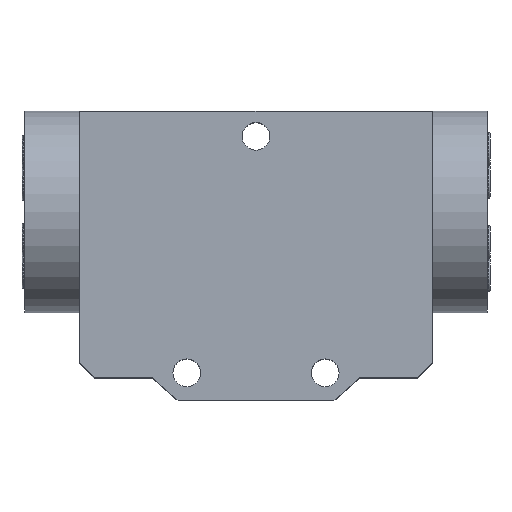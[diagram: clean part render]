
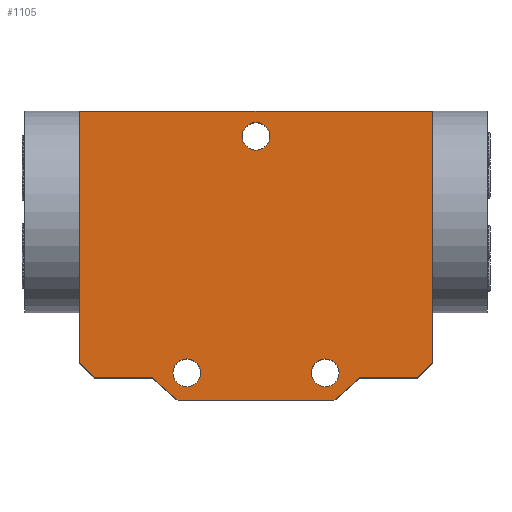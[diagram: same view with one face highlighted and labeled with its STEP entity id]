
A CAD part, top view. The second image highlights one B-rep face of the part: STEP entity #1105.
In plain terms, the highlighted planar face has unit normal (0, 0, 1).
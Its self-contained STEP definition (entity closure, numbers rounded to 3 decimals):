
#331=PLANE('',#7929);
#655=FACE_BOUND('',#2042,.T.);
#656=FACE_BOUND('',#2043,.T.);
#657=FACE_BOUND('',#2044,.T.);
#658=FACE_BOUND('',#2045,.T.);
#1105=ADVANCED_FACE('',(#655,#656,#657,#658),#331,.T.);
#2042=EDGE_LOOP('',(#3289));
#2043=EDGE_LOOP('',(#3290,#3291,#3292,#3293,#3294,#3295,#3296,#3297,#3298,
#3299));
#2044=EDGE_LOOP('',(#3300));
#2045=EDGE_LOOP('',(#3301));
#2889=CIRCLE('',#7926,5.5);
#2890=CIRCLE('',#7927,5.5);
#2891=CIRCLE('',#7928,5.5);
#3289=ORIENTED_EDGE('',*,*,#5930,.T.);
#3290=ORIENTED_EDGE('',*,*,#5860,.T.);
#3291=ORIENTED_EDGE('',*,*,#5931,.T.);
#3292=ORIENTED_EDGE('',*,*,#5932,.T.);
#3293=ORIENTED_EDGE('',*,*,#5933,.T.);
#3294=ORIENTED_EDGE('',*,*,#5934,.T.);
#3295=ORIENTED_EDGE('',*,*,#5935,.T.);
#3296=ORIENTED_EDGE('',*,*,#5936,.T.);
#3297=ORIENTED_EDGE('',*,*,#5937,.T.);
#3298=ORIENTED_EDGE('',*,*,#5904,.T.);
#3299=ORIENTED_EDGE('',*,*,#5928,.T.);
#3300=ORIENTED_EDGE('',*,*,#5938,.F.);
#3301=ORIENTED_EDGE('',*,*,#5939,.F.);
#5130=VERTEX_POINT('',#12514);
#5131=VERTEX_POINT('',#12516);
#5174=VERTEX_POINT('',#12603);
#5175=VERTEX_POINT('',#12605);
#5198=VERTEX_POINT('',#12656);
#5199=VERTEX_POINT('',#12658);
#5200=VERTEX_POINT('',#12660);
#5201=VERTEX_POINT('',#12662);
#5202=VERTEX_POINT('',#12664);
#5203=VERTEX_POINT('',#12666);
#5204=VERTEX_POINT('',#12668);
#5205=VERTEX_POINT('',#12671);
#5206=VERTEX_POINT('',#12673);
#5860=EDGE_CURVE('',#5131,#5130,#6783,.T.);
#5904=EDGE_CURVE('',#5175,#5174,#6803,.T.);
#5928=EDGE_CURVE('',#5174,#5131,#6814,.T.);
#5930=EDGE_CURVE('',#5198,#5198,#2889,.T.);
#5931=EDGE_CURVE('',#5130,#5199,#6815,.T.);
#5932=EDGE_CURVE('',#5199,#5200,#6816,.T.);
#5933=EDGE_CURVE('',#5200,#5201,#6817,.T.);
#5934=EDGE_CURVE('',#5201,#5202,#6818,.T.);
#5935=EDGE_CURVE('',#5202,#5203,#6819,.T.);
#5936=EDGE_CURVE('',#5203,#5204,#6820,.T.);
#5937=EDGE_CURVE('',#5204,#5175,#6821,.T.);
#5938=EDGE_CURVE('',#5205,#5205,#2890,.T.);
#5939=EDGE_CURVE('',#5206,#5206,#2891,.T.);
#6783=LINE('',#12515,#7327);
#6803=LINE('',#12604,#7347);
#6814=LINE('',#12651,#7358);
#6815=LINE('',#12657,#7359);
#6816=LINE('',#12659,#7360);
#6817=LINE('',#12661,#7361);
#6818=LINE('',#12663,#7362);
#6819=LINE('',#12665,#7363);
#6820=LINE('',#12667,#7364);
#6821=LINE('',#12669,#7365);
#7327=VECTOR('',#8737,1.);
#7347=VECTOR('',#8807,1.);
#7358=VECTOR('',#8846,1.);
#7359=VECTOR('',#8853,1.);
#7360=VECTOR('',#8854,1.);
#7361=VECTOR('',#8855,1.);
#7362=VECTOR('',#8856,1.);
#7363=VECTOR('',#8857,1.);
#7364=VECTOR('',#8858,1.);
#7365=VECTOR('',#8859,1.);
#7926=AXIS2_PLACEMENT_3D('',#12655,#8851,#8852);
#7927=AXIS2_PLACEMENT_3D('',#12670,#8860,#8861);
#7928=AXIS2_PLACEMENT_3D('',#12672,#8862,#8863);
#7929=AXIS2_PLACEMENT_3D('',#12674,#8864,#8865);
#8737=DIRECTION('',(0.,-1.,0.));
#8807=DIRECTION('',(0.,1.,0.));
#8846=DIRECTION('',(-1.,0.,0.));
#8851=DIRECTION('',(0.,0.,-1.));
#8852=DIRECTION('',(-1.,0.,0.));
#8853=DIRECTION('',(0.689,-0.725,0.));
#8854=DIRECTION('',(1.,0.,0.));
#8855=DIRECTION('',(0.746,-0.666,0.));
#8856=DIRECTION('',(1.,0.,0.));
#8857=DIRECTION('',(0.746,0.666,0.));
#8858=DIRECTION('',(1.,0.,0.));
#8859=DIRECTION('',(0.689,0.725,0.));
#8860=DIRECTION('',(0.,0.,1.));
#8861=DIRECTION('',(1.,0.,0.));
#8862=DIRECTION('',(0.,0.,1.));
#8863=DIRECTION('',(1.,0.,0.));
#8864=DIRECTION('',(0.,0.,1.));
#8865=DIRECTION('',(1.,0.,0.));
#12514=CARTESIAN_POINT('',(-70.,-42.549,80.));
#12515=CARTESIAN_POINT('',(-70.,57.5,80.));
#12516=CARTESIAN_POINT('',(-70.,57.5,80.));
#12603=CARTESIAN_POINT('',(70.,57.5,80.));
#12604=CARTESIAN_POINT('',(70.,-42.549,80.));
#12605=CARTESIAN_POINT('',(70.,-42.549,80.));
#12651=CARTESIAN_POINT('',(70.,57.5,80.));
#12655=CARTESIAN_POINT('',(27.5,-46.5,80.));
#12656=CARTESIAN_POINT('',(22.,-46.5,80.));
#12657=CARTESIAN_POINT('',(-70.,-42.549,80.));
#12658=CARTESIAN_POINT('',(-64.301,-48.541,80.));
#12659=CARTESIAN_POINT('',(-64.301,-48.541,80.));
#12660=CARTESIAN_POINT('',(-41.036,-48.541,80.));
#12661=CARTESIAN_POINT('',(-41.036,-48.541,80.));
#12662=CARTESIAN_POINT('',(-31.,-57.5,80.));
#12663=CARTESIAN_POINT('',(-31.,-57.5,80.));
#12664=CARTESIAN_POINT('',(31.,-57.5,80.));
#12665=CARTESIAN_POINT('',(31.,-57.5,80.));
#12666=CARTESIAN_POINT('',(41.036,-48.541,80.));
#12667=CARTESIAN_POINT('',(41.036,-48.541,80.));
#12668=CARTESIAN_POINT('',(64.301,-48.541,80.));
#12669=CARTESIAN_POINT('',(64.301,-48.541,80.));
#12670=CARTESIAN_POINT('',(0.,47.5,80.));
#12671=CARTESIAN_POINT('',(5.5,47.5,80.));
#12672=CARTESIAN_POINT('',(-27.5,-46.5,80.));
#12673=CARTESIAN_POINT('',(-22.,-46.5,80.));
#12674=CARTESIAN_POINT('',(0.,0.,80.));
